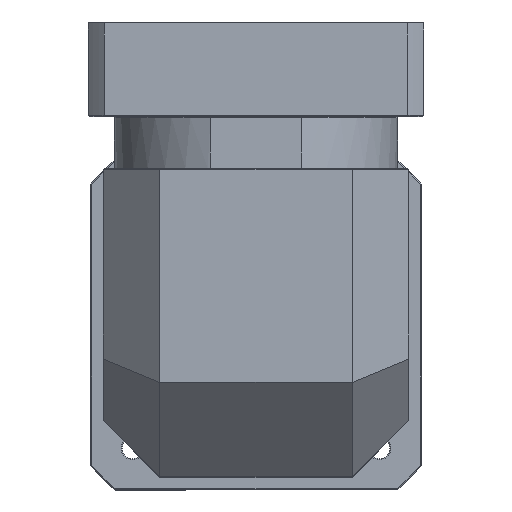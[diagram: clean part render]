
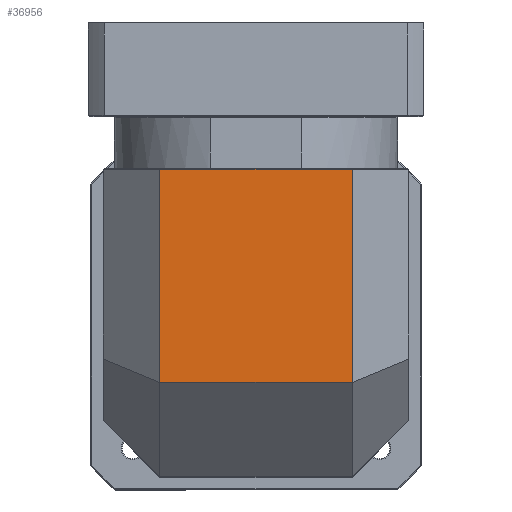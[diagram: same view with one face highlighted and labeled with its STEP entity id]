
A CAD part, top view. The second image highlights one B-rep face of the part: STEP entity #36956.
In plain terms, the highlighted planar face has unit normal (0, 0, 1).
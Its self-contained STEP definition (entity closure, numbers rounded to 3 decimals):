
#1989 = ORIENTED_EDGE ( 'NONE', *, *, #70866, .F. ) ;
#8608 = DIRECTION ( 'NONE',  ( 0., 0., -1. ) ) ;
#9288 = VERTEX_POINT ( 'NONE', #111447 ) ;
#13592 = VECTOR ( 'NONE', #59839, 1000. ) ;
#15992 = VECTOR ( 'NONE', #24087, 1000. ) ;
#19127 = LINE ( 'NONE', #54078, #74522 ) ;
#19509 = EDGE_LOOP ( 'NONE', ( #20425, #113946, #120723, #1989 ) ) ;
#19847 = CARTESIAN_POINT ( 'NONE',  ( -39.808, 137.496, 119.091 ) ) ;
#20425 = ORIENTED_EDGE ( 'NONE', *, *, #57734, .F. ) ;
#21945 = CARTESIAN_POINT ( 'NONE',  ( -141.808, 55.746, 119.091 ) ) ;
#24087 = DIRECTION ( 'NONE',  ( 0., 1., 0. ) ) ;
#27158 = DIRECTION ( 'NONE',  ( 1., 0., 0. ) ) ;
#36956 = ADVANCED_FACE ( 'NONE', ( #62494 ), #125665, .F. ) ;
#38346 = CARTESIAN_POINT ( 'NONE',  ( -39.808, 136.996, 119.091 ) ) ;
#39267 = CARTESIAN_POINT ( 'NONE',  ( -141.808, 136.996, 119.091 ) ) ;
#40489 = DIRECTION ( 'NONE',  ( -1., 0., 0. ) ) ;
#44770 = CARTESIAN_POINT ( 'NONE',  ( -141.808, 23.996, 119.091 ) ) ;
#48706 = CARTESIAN_POINT ( 'NONE',  ( -171.808, 136.996, 119.091 ) ) ;
#49306 = VECTOR ( 'NONE', #40489, 1000. ) ;
#52955 = LINE ( 'NONE', #21945, #15992 ) ;
#54078 = CARTESIAN_POINT ( 'NONE',  ( -171.808, 23.996, 119.091 ) ) ;
#57734 = EDGE_CURVE ( 'NONE', #65619, #9288, #87601, .T. ) ;
#59839 = DIRECTION ( 'NONE',  ( 0., -1., 0. ) ) ;
#62494 = FACE_OUTER_BOUND ( 'NONE', #19509, .T. ) ;
#65619 = VERTEX_POINT ( 'NONE', #38346 ) ;
#65754 = VERTEX_POINT ( 'NONE', #39267 ) ;
#70866 = EDGE_CURVE ( 'NONE', #9288, #82287, #19127, .T. ) ;
#74522 = VECTOR ( 'NONE', #113403, 1000. ) ;
#80647 = AXIS2_PLACEMENT_3D ( 'NONE', #86067, #8608, #27158 ) ;
#82287 = VERTEX_POINT ( 'NONE', #44770 ) ;
#86067 = CARTESIAN_POINT ( 'NONE',  ( -171.808, 137.496, 119.091 ) ) ;
#87601 = LINE ( 'NONE', #19847, #13592 ) ;
#107866 = LINE ( 'NONE', #48706, #49306 ) ;
#108560 = EDGE_CURVE ( 'NONE', #82287, #65754, #52955, .T. ) ;
#111447 = CARTESIAN_POINT ( 'NONE',  ( -39.808, 23.996, 119.091 ) ) ;
#113403 = DIRECTION ( 'NONE',  ( -1., 0., 0. ) ) ;
#113946 = ORIENTED_EDGE ( 'NONE', *, *, #125897, .T. ) ;
#120723 = ORIENTED_EDGE ( 'NONE', *, *, #108560, .F. ) ;
#125665 = PLANE ( 'NONE',  #80647 ) ;
#125897 = EDGE_CURVE ( 'NONE', #65619, #65754, #107866, .T. ) ;
